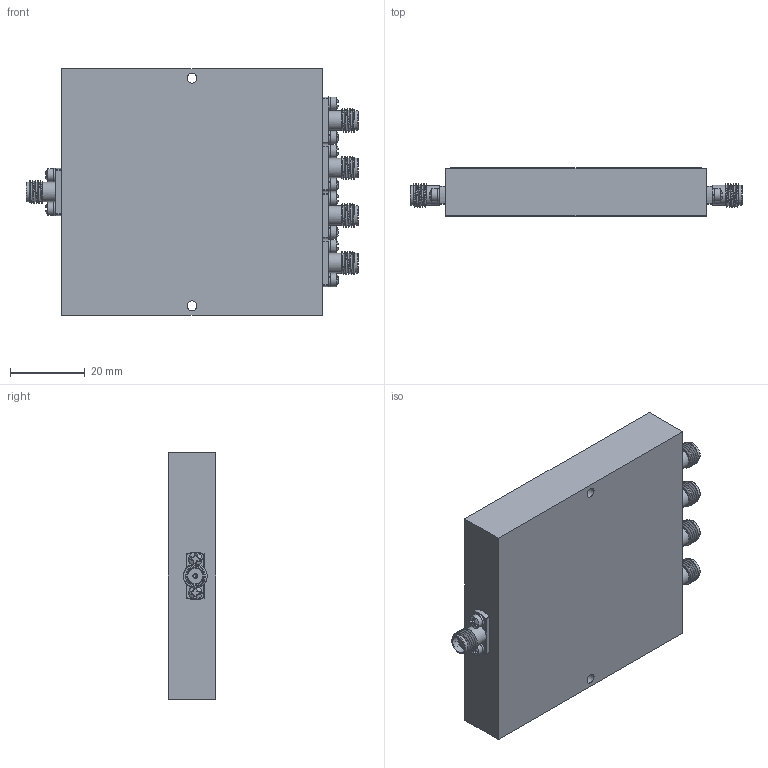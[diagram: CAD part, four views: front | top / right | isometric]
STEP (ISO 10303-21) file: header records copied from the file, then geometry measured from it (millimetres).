
FILE_DESCRIPTION (( 'STEP AP214' ), '1' );
FILE_NAME ('PD-10M1G-4-SFF.STEP', '2025-12-17T17:26:02', ( '' ), ( '' ), 'SwSTEP 2.0', 'SolidWorks 2025', '' );
FILE_SCHEMA (( 'AUTOMOTIVE_DESIGN' ));
Length unit declared in the file: millimetre
Products named in the file (1): PD-10M1G-4-SFF
Bounding box: 88.9 x 12.8 x 66.04 mm (x, y, z)
Volume: 60313.9 mm3; surface area: 23645.5 mm2
Topology: 42 solids, 42 shells, 924 faces, 3190 edges, 2521 vertices
Faces by surface type: plane 513, cylinder 171, torus 120, cone 60, sphere 50, bspline 10
Full cylindrical faces by diameter (mm): 0.381 x5, 0.508 x10, 0.762 x5, 1.016 x5, 1.27 x5, 2.184 x10, 2.591 x10, 2.642 x2, 3.302 x5, 3.556 x10, 4.191 x10, 4.597 x5, 5.283 x10
Entity records: 51173 total; most frequent: CARTESIAN_POINT 15767, ORIENTED_EDGE 5816, DIRECTION 4833, EDGE_CURVE 2908, VERTEX_POINT 2491, AXIS2_PLACEMENT_3D 1692, LINE 1449, VECTOR 1449
